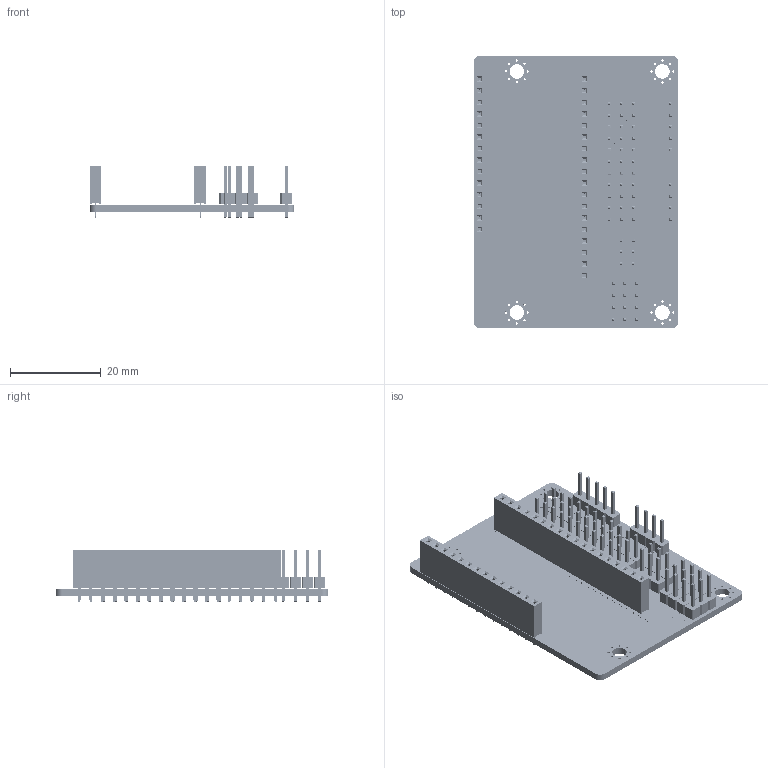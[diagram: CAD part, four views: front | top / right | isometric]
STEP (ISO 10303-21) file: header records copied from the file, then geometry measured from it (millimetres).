
FILE_DESCRIPTION(('KiCad electronic assembly'),'2;1');
FILE_NAME('[M027.01000](V1.1.0).step','2025-10-31T13:33:12',('Pcbnew'),( 'Kicad'),'Open CASCADE STEP processor 7.8','KiCad to STEP converter' ,'Unknown');
FILE_SCHEMA(('AUTOMOTIVE_DESIGN { 1 0 10303 214 1 1 1 1 }'));
Length unit declared in the file: millimetre
Products named in the file (16): [M027.01000](V1.1.0) 1; PinHeader_1x03_P254mm_G; PinHeader_1x03_P254mm_B; PinHeader_1x03_P2.54mm_Vertical; PinSocket_1x14_P2.54mm_Vertical; PinHeader_1x11_P2.54mm_G; PinHeader_1x11_P2.54mm_Vertical; PinHeader_1x04_P2.54mm_Vertical; PinSocket_1x18_P2.54mm_Vertical; PinHeader_1x05_P2.54mm_Vertical; PinHeader_1x11_P2.54mm_R; PinHeader_1x03_P254mm_R; [M027.01000](V1.1.0)_copper; [M027.01000](V1.1.0)_via; [M027.01000](V1.1.0)_silkscreen; [M027.01000](V1.1.0)_PCB
Assembly tree (17 placements, depth 2):
  [M027.01000](V1.1.0) 1
    PinHeader_1x03_P254mm_G
    PinHeader_1x03_P254mm_B
    PinHeader_1x03_P2.54mm_Vertical  x3
    PinSocket_1x14_P2.54mm_Vertical
    PinHeader_1x11_P2.54mm_G
    PinHeader_1x11_P2.54mm_Vertical
    PinHeader_1x04_P2.54mm_Vertical
    PinSocket_1x18_P2.54mm_Vertical
    PinHeader_1x05_P2.54mm_Vertical
    PinHeader_1x11_P2.54mm_R
    PinHeader_1x03_P254mm_R
    [M027.01000](V1.1.0)_copper
    [M027.01000](V1.1.0)_via
    [M027.01000](V1.1.0)_silkscreen
    [M027.01000](V1.1.0)_PCB
Bounding box: 45 x 60 x 11.64 mm (x, y, z)
Volume: 6772 mm3; surface area: 12879.9 mm2
Topology: 250 solids, 1134 shells, 4825 faces, 27689 edges, 24432 vertices
Faces by surface type: plane 4223, cylinder 602
Full cylindrical faces by diameter (mm): 0.204 x70, 0.229 x140, 0.254 x70, 0.5 x32, 0.508 x134, 0.875 x14, 0.9 x92, 3.2 x4
Entity records: 295307 total; most frequent: CARTESIAN_POINT 56228, DIRECTION 39616, ORIENTED_EDGE 36132, EDGE_CURVE 27329, LINE 24424, VECTOR 24424, VERTEX_POINT 24208, AXIS2_PLACEMENT_3D 7596
